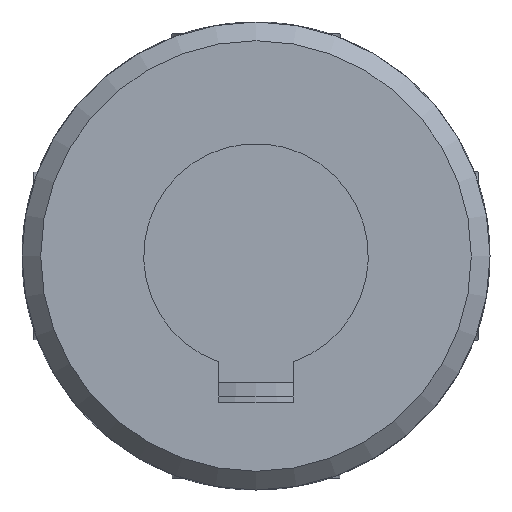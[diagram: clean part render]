
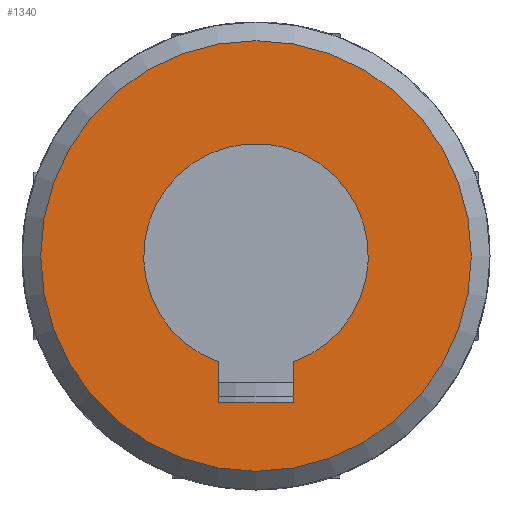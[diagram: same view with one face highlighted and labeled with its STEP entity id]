
A CAD part, front view. The second image highlights one B-rep face of the part: STEP entity #1340.
In plain terms, the highlighted planar face has unit normal (0, -1, 0).
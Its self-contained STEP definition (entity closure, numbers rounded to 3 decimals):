
#149=LINE('',#2399,#194);
#154=LINE('',#2416,#199);
#155=LINE('',#2429,#200);
#194=VECTOR('',#1748,2.143);
#199=VECTOR('',#1759,2.143);
#200=VECTOR('',#1762,4.);
#239=PLANE('',#1477);
#277=FACE_BOUND('',#452,.T.);
#339=FACE_OUTER_BOUND('',#451,.T.);
#451=EDGE_LOOP('',(#1119));
#452=EDGE_LOOP('',(#1120,#1121,#1122,#1123));
#526=CIRCLE('',#1465,6.);
#531=CIRCLE('',#1475,11.5);
#628=VERTEX_POINT('',#2388);
#629=VERTEX_POINT('',#2390);
#631=VERTEX_POINT('',#2398);
#637=VERTEX_POINT('',#2414);
#639=VERTEX_POINT('',#2435);
#787=EDGE_CURVE('',#629,#628,#526,.T.);
#790=EDGE_CURVE('',#631,#629,#149,.T.);
#798=EDGE_CURVE('',#628,#637,#154,.T.);
#800=EDGE_CURVE('',#637,#631,#155,.T.);
#803=EDGE_CURVE('',#639,#639,#531,.T.);
#1119=ORIENTED_EDGE('',*,*,#803,.F.);
#1120=ORIENTED_EDGE('',*,*,#798,.T.);
#1121=ORIENTED_EDGE('',*,*,#800,.T.);
#1122=ORIENTED_EDGE('',*,*,#790,.T.);
#1123=ORIENTED_EDGE('',*,*,#787,.T.);
#1340=ADVANCED_FACE('',(#339,#277),#239,.F.);
#1465=AXIS2_PLACEMENT_3D('',#2391,#1743,#1744);
#1475=AXIS2_PLACEMENT_3D('',#2436,#1771,#1772);
#1477=AXIS2_PLACEMENT_3D('',#2652,#1779,#1780);
#1743=DIRECTION('center_axis',(0.,1.,0.));
#1744=DIRECTION('ref_axis',(0.333,0.,-0.943));
#1748=DIRECTION('',(0.,0.,1.));
#1759=DIRECTION('',(0.,0.,-1.));
#1762=DIRECTION('',(-1.,0.,0.));
#1771=DIRECTION('center_axis',(0.,1.,0.));
#1772=DIRECTION('ref_axis',(1.,0.,0.));
#1779=DIRECTION('center_axis',(0.,1.,0.));
#1780=DIRECTION('ref_axis',(0.,0.,1.));
#2388=CARTESIAN_POINT('',(2.,-34.5,-5.657));
#2390=CARTESIAN_POINT('',(-2.,-34.5,-5.657));
#2391=CARTESIAN_POINT('Origin',(0.,-34.5,0.));
#2398=CARTESIAN_POINT('',(-2.,-34.5,-7.8));
#2399=CARTESIAN_POINT('',(-2.,-34.5,-3.9));
#2414=CARTESIAN_POINT('',(2.,-34.5,-7.8));
#2416=CARTESIAN_POINT('',(2.,-34.5,-2.828));
#2429=CARTESIAN_POINT('',(1.,-34.5,-7.8));
#2435=CARTESIAN_POINT('',(-11.5,-34.5,0.));
#2436=CARTESIAN_POINT('Origin',(0.,-34.5,0.));
#2652=CARTESIAN_POINT('Origin',(0.,-34.5,0.));
